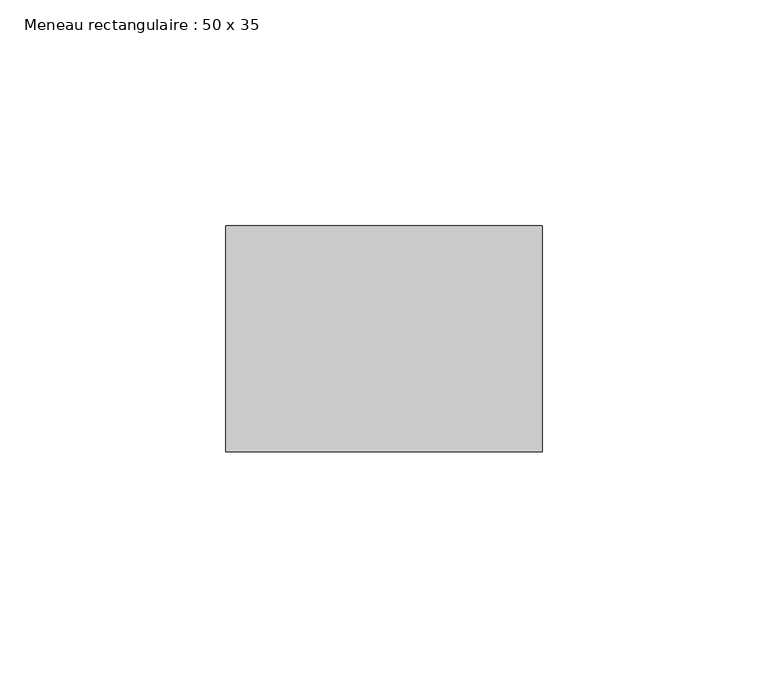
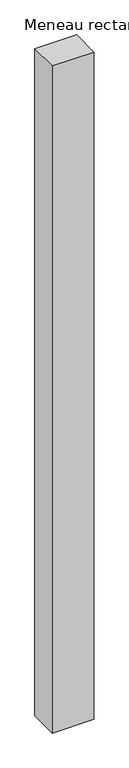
"""IFC4 building model written with IfcOpenShell, lengths in millimetres: member geometry, Meneau rectangulaire : 50 x 35."""

from ifc_helpers import new_model, si_unit, frame, origin, place, context, project, spatial, polyline, outline, extrude, source, transform, mapped, element, save


def meneau_rectangulaire_50_x_35_f95364a9(model_context):
    return source(origin(), model_context, "Body", "SweptSolid", [
        extrude(outline(polyline([(0.0, 0.0), (0.0, -50.0), (-70.0, -50.0), (-70.0, 0.0), (0.0, 0.0)])), frame((0.0, 0.0, -1181.3280173), z_axis=(0.0, 0.0, 1.0), x_axis=(1.0, 0.0, 0.0)), (0.0, 0.0, 1.0), 1181.3280173),
    ])


if __name__ == "__main__":
    model = new_model("IFC4")
    model_context = context("Model", 3, world=origin())
    ifc_project = project(units=[si_unit("LENGTHUNIT", "METRE", prefix="MILLI")], contexts=[model_context])
    site = spatial("IfcSite", under=ifc_project)
    building = spatial("IfcBuilding", under=site)
    placement = place(None, origin())
    meneau_rectangulaire_50_x_35_shape = meneau_rectangulaire_50_x_35_f95364a9(model_context)
    element("IfcMember", 1, ObjectType="Meneau rectangulaire : 50 x 35", at=placement, inside=building, context=model_context, shape_type="MappedRepresentation", body=[
        mapped(meneau_rectangulaire_50_x_35_shape, transform((0.0, 0.0, 0.0), x_axis=(1.0, 0.0, 0.0), y_axis=(0.0, 1.0, 0.0), z_axis=(0.0, 0.0, 1.0))),
    ])
    save(model, "model.ifc")
